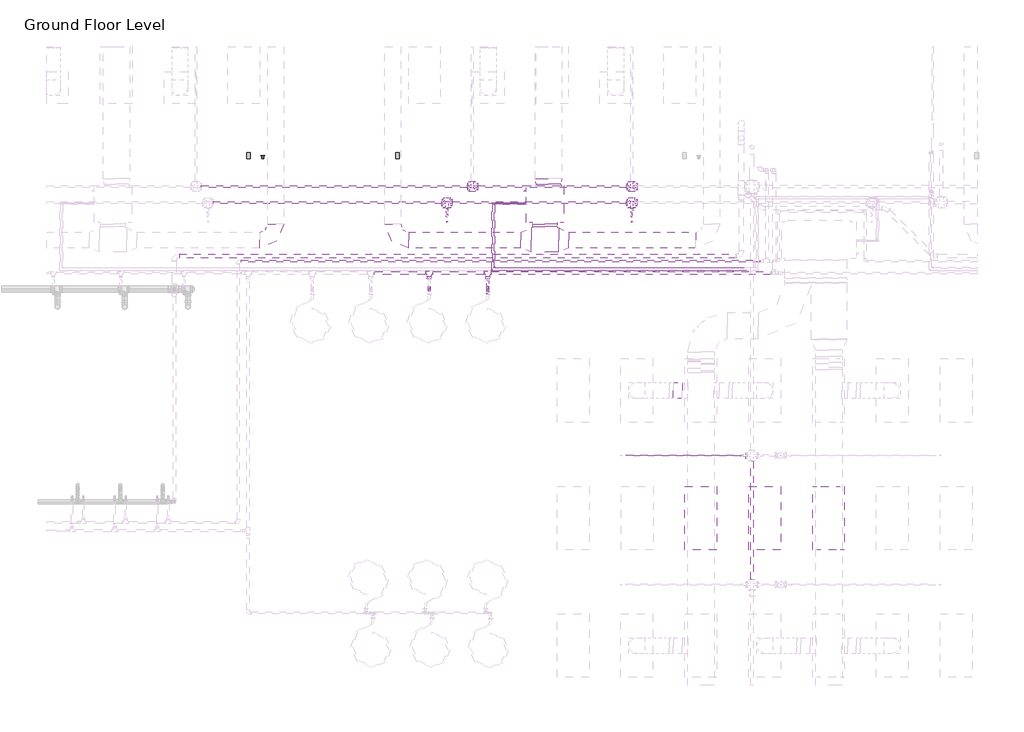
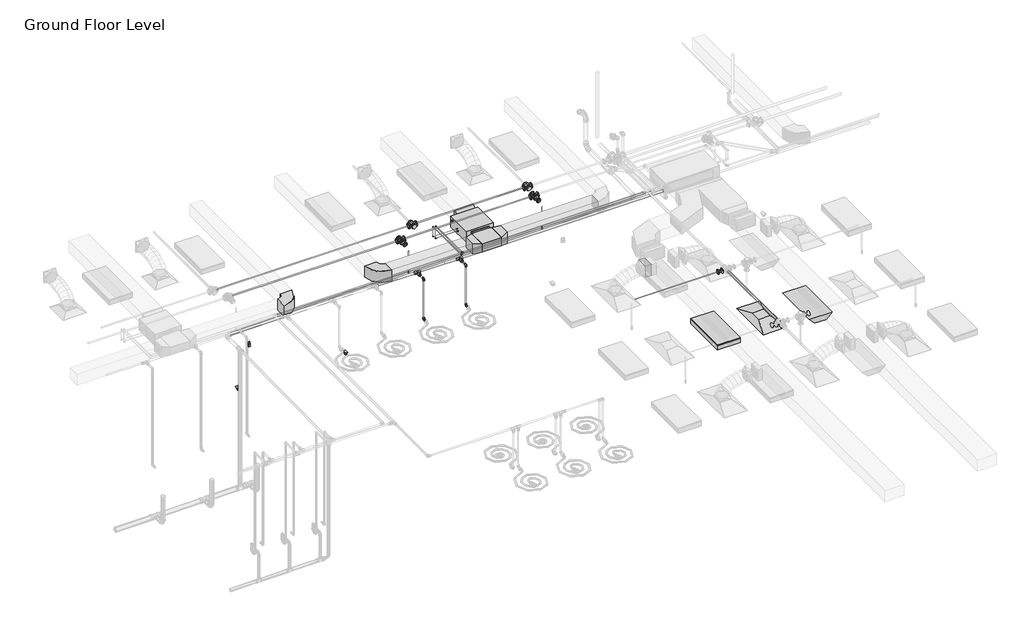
# One storey, part 48 of 74: 27 pipe segments, 21 pipe fittings, 8 duct fittings, 4 duct segments, 3 proxies, 2 fire suppression terminals, 2 light fixtures, 1 air terminal, 1 switching device.
"""IFC4 building model written with IfcOpenShell, lengths in millimetres."""

from ifc_helpers import new_model, si_unit, point, frame, frame_2d, origin, place, context, project, spatial, polyline, circle_curve, trimmed, segment, composite_curve, outline, extrude, transform, mapped, element, save
from components import m_return_diffuser_1200x600_1200_x_600_face_300_x_300_d1983ef6, fcu_daikin_iu_bad131e0, m_duplex_receptacle_standard_10251bba, m_rectangular_elbow_radius_1_w_618da153, m_rectangular_tee_standard_fa4de0e8, m_rectangular_transition_angle_45_degree_5a11b24e, m_rectangular_transition_angle_45_degree_27e6000f, m_rectangular_transition_angle_45_degree_1c32c0a1, m_rectangular_transition_angle_45_degree_6e5ad010, m_sprinkler_pendent_15_mm_pendent_06fcbd8e, m_emergency_recessed_lighting_fixture_600x1200_277_5b10b25d, m_troffer_light_parabolic_rectangular1_0600x1200mm_4_lamp_86473d4a, m_elbow_generic_standard_a088f956, m_elbow_generic_standard_2a704253, m_elbow_generic_standard_6b1a80c6, m_elbow_generic_standard_5542be81, m_reducer_flanged_cs_class_150_standard_ccf252ad, m_reducer_flanged_cs_class_150_standard_83138b42, m_tee_generic_standard_5b2ed4d4, m_tee_generic_standard_25a94648, m_tee_round_base_flanged_cs_class_150_standard_7e5987a1, standard_517a5a8d, standard_cd25fed3, standard_f1337950

model = new_model("IFC4")

# Units and contexts
model_context = context("Model", 3, world=origin())
ifc_project = project(units=[si_unit("LENGTHUNIT", "METRE", prefix="MILLI")], contexts=[model_context])

# Site, building, storey
site = spatial("IfcSite", under=ifc_project)
building = spatial("IfcBuilding", under=site)
storey = spatial("IfcBuildingStorey", under=building, Name="Ground Floor Level", Elevation=900.0)

# Air terminal
placement = place(None, origin())
m_return_diffuser_1200x600_1200_x_600_face_300_x_300_shape = m_return_diffuser_1200x600_1200_x_600_face_300_x_300_d1983ef6(model_context)
element("IfcAirTerminal", 1, ObjectType="M_Return Diffuser 1200x600 : 1200 x 600 Face 300 x 300 Connection", at=placement, inside=storey, context=model_context, shape_type="MappedRepresentation", body=[
    mapped(m_return_diffuser_1200x600_1200_x_600_face_300_x_300_shape, transform((-5737.2327605, 8835.2153534, 3650.0), x_axis=(0.0, 1.0, 0.0), y_axis=(-1.0, 0.0, 0.0), z_axis=(0.0, 0.0, 1.0))),
])

# Proxies
fcu_daikin_iu_shape = fcu_daikin_iu_bad131e0(model_context)
element("IfcBuildingElementProxy", 2, Name="FCU-DAIKIN IU : 4.5kW, 230V/50Hz/1Ph", ObjectType="FCU-DAIKIN IU : 4.5kW, 230V/50Hz/1Ph", at=placement, inside=storey, context=model_context, shape_type="MappedRepresentation", body=[
    mapped(fcu_daikin_iu_shape, transform((-9872.2327605, 14745.2153534, 3934.0872564), x_axis=(-1.0, 0.0, 0.0), y_axis=(0.0, -1.0, 0.0), z_axis=(0.0, 0.0, 1.0))),
])
m_duplex_receptacle_standard_shape = m_duplex_receptacle_standard_10251bba(model_context)
element("IfcBuildingElementProxy", 3, Name="M_Duplex Receptacle : Standard", ObjectType="M_Duplex Receptacle : Standard", at=placement, inside=storey, context=model_context, shape_type="MappedRepresentation", body=[
    mapped(m_duplex_receptacle_standard_shape, transform((-15447.2327605, 15655.2153534, 1000.0), x_axis=(1.0, 0.0, 0.0), y_axis=(0.0, 1.0, 0.0), z_axis=(0.0, 0.0, 1.0))),
])
element("IfcBuildingElementProxy", 4, Name="M_Duplex Receptacle : Standard", ObjectType="M_Duplex Receptacle : Standard", at=placement, inside=storey, context=model_context, shape_type="MappedRepresentation", body=[
    mapped(m_duplex_receptacle_standard_shape, transform((-12647.2327605, 15655.2153534, 1000.0), x_axis=(1.0, 0.0, 0.0), y_axis=(0.0, 1.0, 0.0), z_axis=(0.0, 0.0, 1.0))),
])

# Duct fittings
m_rectangular_elbow_radius_1_w_shape = m_rectangular_elbow_radius_1_w_618da153(model_context)
element("IfcDuctFitting", 5, ObjectType="M_Rectangular Elbow - Radius : 1 W", at=placement, inside=storey, context=model_context, shape_type="MappedRepresentation", body=[
    mapped(m_rectangular_elbow_radius_1_w_shape, transform((-14937.2327605, 14069.8153534, 4075.2881511), x_axis=(1.0, 0.0, 0.0), y_axis=(0.0, 1.0, 0.0), z_axis=(0.0, 0.0, 1.0))),
])
element("IfcDuctFitting", 6, ObjectType="M_Rectangular Elbow - Radius : 1 W", at=placement, inside=storey, context=model_context, shape_type="MappedRepresentation", body=[
    mapped(m_rectangular_elbow_radius_1_w_shape, transform((-12737.2327605, 14069.8153534, 4075.2872564), x_axis=(0.0, -1.0, 0.0), y_axis=(1.0, 0.0, 0.0), z_axis=(0.0, 0.0, 1.0))),
])
m_rectangular_tee_standard_shape = m_rectangular_tee_standard_fa4de0e8(model_context)
element("IfcDuctFitting", 7, ObjectType="M_Rectangular Tee : Standard", at=placement, inside=storey, context=model_context, shape_type="MappedRepresentation", body=[
    mapped(m_rectangular_tee_standard_shape, transform((-9872.2327605, 14069.8153534, 4075.2872564), x_axis=(-1.0, 0.0, 0.0), y_axis=(0.0, -1.0, 0.0), z_axis=(0.0, 0.0, 1.0))),
])
m_rectangular_transition_angle_45_degree_shape = m_rectangular_transition_angle_45_degree_5a11b24e(model_context)
element("IfcDuctFitting", 8, ObjectType="M_Rectangular Transition - Angle : 45 Degree", at=placement, inside=storey, context=model_context, shape_type="MappedRepresentation", body=[
    mapped(m_rectangular_transition_angle_45_degree_shape, transform((-9808.7327605, 15120.6153534, 4099.9997564), x_axis=(0.0, 1.0, 0.0), y_axis=(-1.0, 0.0, 0.0), z_axis=(0.0, 0.0, 1.0))),
])
m_rectangular_transition_angle_45_degree_2_shape = m_rectangular_transition_angle_45_degree_27e6000f(model_context)
element("IfcDuctFitting", 9, ObjectType="M_Rectangular Transition - Angle : 45 Degree", at=placement, inside=storey, context=model_context, shape_type="MappedRepresentation", body=[
    mapped(m_rectangular_transition_angle_45_degree_2_shape, transform((-9872.2327605, 14369.8153534, 4075.2872564), x_axis=(0.0, -1.0, 0.0), y_axis=(1.0, 0.0, 0.0), z_axis=(0.0, 0.0, 1.0))),
])
m_rectangular_transition_angle_45_degree_3_shape = m_rectangular_transition_angle_45_degree_1c32c0a1(model_context)
element("IfcDuctFitting", 10, ObjectType="M_Rectangular Transition - Angle : 45 Degree", at=placement, inside=storey, context=model_context, shape_type="MappedRepresentation", body=[
    mapped(m_rectangular_transition_angle_45_degree_3_shape, transform((-9872.2327605, 14326.1149854, 4075.2872564), x_axis=(0.0, -1.0, 0.0), y_axis=(1.0, 0.0, 0.0), z_axis=(0.0, 0.0, 1.0))),
])
m_rectangular_transition_angle_45_degree_4_shape = m_rectangular_transition_angle_45_degree_6e5ad010(model_context)
element("IfcDuctFitting", 11, ObjectType="M_Rectangular Transition - Angle : 45 Degree", at=placement, inside=storey, context=model_context, shape_type="MappedRepresentation", body=[
    mapped(m_rectangular_transition_angle_45_degree_4_shape, transform((-10128.1702605, 14069.8153534, 4075.2872564), x_axis=(-1.0, 0.0, 0.0), y_axis=(0.0, -1.0, 0.0), z_axis=(0.0, 0.0, 1.0))),
])
element("IfcDuctFitting", 12, ObjectType="M_Rectangular Transition - Angle : 45 Degree", at=placement, inside=storey, context=model_context, shape_type="MappedRepresentation", body=[
    mapped(m_rectangular_transition_angle_45_degree_4_shape, transform((-9616.2952605, 14069.8153534, 4075.2872564), x_axis=(1.0, 0.0, 0.0), y_axis=(0.0, 1.0, 0.0), z_axis=(0.0, 0.0, 1.0))),
])

# Duct segments
element("IfcDuctSegment", 13, ObjectType="Radius Elbows / Taps", at=placement, inside=storey, context=model_context, shape_type="SweptSolid", body=[
    extrude(outline(polyline([(-9420.8948503, 13919.8153534), (-9420.8948503, 14219.8153534), (-7037.2327605, 14219.8153534), (-7037.2327605, 13919.8153534), (-9420.8948503, 13919.8153534)])), frame((0.0, 0.0, 3925.2872564), z_axis=(0.0, 0.0, 1.0), x_axis=(1.0, 0.0, 0.0)), (0.0, 0.0, 1.0), 300.0),
])
element("IfcDuctSegment", 14, ObjectType="Radius Elbows / Taps", at=placement, inside=storey, context=model_context, shape_type="SweptSolid", body=[
    extrude(outline(polyline([(-12437.2327605, 13919.8153534), (-12437.2327605, 14219.8153534), (-10323.5706707, 14219.8153534), (-10323.5706707, 13919.8153534), (-12437.2327605, 13919.8153534)])), frame((0.0, 0.0, 3925.2872564), z_axis=(0.0, 0.0, 1.0), x_axis=(1.0, 0.0, 0.0)), (0.0, 0.0, 1.0), 300.0),
])
element("IfcDuctSegment", 15, ObjectType="Radius Elbows / Taps", at=placement, inside=storey, context=model_context, shape_type="SweptSolid", body=[
    extrude(outline(polyline([(-10103.2327605, 14369.4532214), (-9641.2327605, 14369.4532214), (-9641.2327605, 14326.1149854), (-10103.2327605, 14326.1149854), (-10103.2327605, 14369.4532214)])), frame((0.0, 0.0, 3968.2872564), z_axis=(0.0, 0.0, 1.0), x_axis=(1.0, 0.0, 0.0)), (0.0, 0.0, 1.0), 214.0),
])
element("IfcDuctSegment", 16, ObjectType="Radius Elbows / Taps", at=placement, inside=storey, context=model_context, shape_type="SweptSolid", body=[
    extrude(outline(polyline([(-7291.2910789, 11385.2153534), (-7291.2910789, 11085.2153534), (-7461.2487616, 11085.2153534), (-7461.2487616, 11385.2153534), (-7291.2910789, 11385.2153534)])), frame((0.0, 0.0, 4000.0), z_axis=(0.0, 0.0, 1.0), x_axis=(1.0, 0.0, 0.0)), (0.0, 0.0, 1.0), 300.0),
])

# Fire suppression terminals
m_sprinkler_pendent_15_mm_pendent_shape = m_sprinkler_pendent_15_mm_pendent_06fcbd8e(model_context)
element("IfcFireSuppressionTerminal", 17, ObjectType="M_Sprinkler - Pendent : 15 mm Pendent", at=placement, inside=storey, context=model_context, shape_type="MappedRepresentation", body=[
    mapped(m_sprinkler_pendent_15_mm_pendent_shape, transform((-11714.286216, 14412.7243649, 3650.0), x_axis=(1.0, 0.0, 0.0), y_axis=(0.0, 1.0, 0.0), z_axis=(0.0, 0.0, 1.0))),
])
element("IfcFireSuppressionTerminal", 18, ObjectType="M_Sprinkler - Pendent : 15 mm Pendent", at=placement, inside=storey, context=model_context, shape_type="MappedRepresentation", body=[
    mapped(m_sprinkler_pendent_15_mm_pendent_shape, transform((-8237.2327605, 14412.7243649, 3650.0), x_axis=(1.0, 0.0, 0.0), y_axis=(0.0, 1.0, 0.0), z_axis=(0.0, 0.0, 1.0))),
])

# Light fixtures
m_emergency_recessed_lighting_fixture_600x1200_277_shape = m_emergency_recessed_lighting_fixture_600x1200_277_5b10b25d(model_context)
element("IfcLightFixture", 19, ObjectType="M_Emergency Recessed Lighting Fixture : 600x1200 - 277", at=placement, inside=storey, context=model_context, shape_type="MappedRepresentation", body=[
    mapped(m_emergency_recessed_lighting_fixture_600x1200_277_shape, transform((-4837.2327605, 8235.2153534, 3650.0), x_axis=(0.0, 1.0, 0.0), y_axis=(-1.0, 0.0, 0.0), z_axis=(0.0, 0.0, 1.0))),
])
m_troffer_light_parabolic_rectangular1_0600x1200mm_4_lamp_shape = m_troffer_light_parabolic_rectangular1_0600x1200mm_4_lamp_86473d4a(model_context)
element("IfcLightFixture", 20, ObjectType="M_Troffer Light - Parabolic Rectangular1 : 0600x1200mm(4 Lamp) - 277V 2", at=placement, inside=storey, context=model_context, shape_type="MappedRepresentation", body=[
    mapped(m_troffer_light_parabolic_rectangular1_0600x1200mm_4_lamp_shape, transform((-6996.6986926, 8853.918855, 3650.0), x_axis=(0.0, 1.0, 0.0), y_axis=(-1.0, 0.0, 0.0), z_axis=(0.0, 0.0, 1.0))),
])

# Pipe fittings
m_elbow_generic_standard_shape = m_elbow_generic_standard_a088f956(model_context)
element("IfcPipeFitting", 21, ObjectType="M_Elbow - Generic : Standard", at=placement, inside=storey, context=model_context, shape_type="MappedRepresentation", body=[
    mapped(m_elbow_generic_standard_shape, transform((-10820.3327605, 14745.2153534, 4380.0), x_axis=(0.0, 0.0, 1.0), y_axis=(0.0, -1.0, 0.0), z_axis=(1.0, 0.0, 0.0))),
])
m_elbow_generic_standard_2_shape = m_elbow_generic_standard_2a704253(model_context)
element("IfcPipeFitting", 22, ObjectType="M_Elbow - Generic : Standard", at=placement, inside=storey, context=model_context, shape_type="MappedRepresentation", body=[
    mapped(m_elbow_generic_standard_2_shape, transform((-10870.0192947, 14770.2153534, 4365.0), x_axis=(0.0, 0.0, 1.0), y_axis=(0.0, -1.0, 0.0), z_axis=(1.0, 0.0, 0.0))),
])
m_elbow_generic_standard_3_shape = m_elbow_generic_standard_6b1a80c6(model_context)
element("IfcPipeFitting", 23, ObjectType="M_Elbow - Generic : Standard", at=placement, inside=storey, context=model_context, shape_type="MappedRepresentation", body=[
    mapped(m_elbow_generic_standard_3_shape, transform((-10820.3359808, 14745.2153534, 4034.0996164), x_axis=(-0.9999999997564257, 0.0, 2.2071440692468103e-05), y_axis=(2.2071440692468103e-05, 0.0, 0.9999999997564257), z_axis=(0.0, 1.0, 0.0))),
])
m_elbow_generic_standard_4_shape = m_elbow_generic_standard_5542be81(model_context)
element("IfcPipeFitting", 24, ObjectType="M_Elbow - Generic : Standard", at=placement, inside=storey, context=model_context, shape_type="MappedRepresentation", body=[
    mapped(m_elbow_generic_standard_4_shape, transform((-10870.0222525, 14770.2153534, 4084.8996164), x_axis=(0.0, 0.0, -1.0), y_axis=(1.0, 0.0, 0.0), z_axis=(0.0, -1.0, 0.0))),
])
m_reducer_flanged_cs_class_150_standard_shape = m_reducer_flanged_cs_class_150_standard_ccf252ad(model_context)
element("IfcPipeFitting", 25, ObjectType="M_Reducer - Flanged - CS - Class 150 : Standard", at=placement, inside=storey, context=model_context, shape_type="MappedRepresentation", body=[
    mapped(m_reducer_flanged_cs_class_150_standard_shape, transform((-11714.286216, 14672.759591, 4291.0943441), x_axis=(0.0, -1.0, 0.0), y_axis=(1.0, 0.0, 0.0), z_axis=(0.0, 0.0, 1.0))),
])
element("IfcPipeFitting", 26, ObjectType="M_Reducer - Flanged - CS - Class 150 : Standard", at=placement, inside=storey, context=model_context, shape_type="MappedRepresentation", body=[
    mapped(m_reducer_flanged_cs_class_150_standard_shape, transform((-8237.2327605, 14672.759591, 4291.0943441), x_axis=(0.0, -1.0, 0.0), y_axis=(1.0, 0.0, 0.0), z_axis=(0.0, 0.0, 1.0))),
])
m_reducer_flanged_cs_class_150_standard_2_shape = m_reducer_flanged_cs_class_150_standard_83138b42(model_context)
element("IfcPipeFitting", 27, ObjectType="M_Reducer - Flanged - CS - Class 150 : Standard", at=placement, inside=storey, context=model_context, shape_type="MappedRepresentation", body=[
    mapped(m_reducer_flanged_cs_class_150_standard_2_shape, transform((-6080.130502, 10013.008259, 4360.0), x_axis=(-1.0, 0.0, 0.0), y_axis=(0.0, 0.0, -1.0), z_axis=(0.0, -1.0, 0.0))),
])
m_tee_generic_standard_shape = m_tee_generic_standard_5b2ed4d4(model_context)
element("IfcPipeFitting", 28, ObjectType="M_Tee - Generic : Standard", at=placement, inside=storey, context=model_context, shape_type="MappedRepresentation", body=[
    mapped(m_tee_generic_standard_shape, transform((-10820.3327605, 13545.2153534, 4380.0), x_axis=(1.0, 0.0, 0.0), y_axis=(0.0, -1.0, 0.0), z_axis=(0.0, 0.0, -1.0))),
])
m_tee_generic_standard_2_shape = m_tee_generic_standard_25a94648(model_context)
element("IfcPipeFitting", 29, ObjectType="M_Tee - Generic : Standard", at=placement, inside=storey, context=model_context, shape_type="MappedRepresentation", body=[
    mapped(m_tee_generic_standard_2_shape, transform((-10870.0192947, 13494.0185138, 4365.0), x_axis=(-1.0, 0.0, 0.0), y_axis=(0.0, -1.0, 0.0), z_axis=(0.0, 0.0, 1.0))),
])
m_tee_round_base_flanged_cs_class_150_standard_shape = m_tee_round_base_flanged_cs_class_150_standard_7e5987a1(model_context)
element("IfcPipeFitting", 30, ObjectType="M_Tee Round Base - Flanged - CS - Class 150 : Standard", at=placement, inside=storey, context=model_context, shape_type="MappedRepresentation", body=[
    mapped(m_tee_round_base_flanged_cs_class_150_standard_shape, transform((-11714.286216, 14773.4681847, 4291.0943441), x_axis=(-1.0, 0.0, 0.0), y_axis=(0.0, 1.0, 0.0), z_axis=(0.0, 0.0, -1.0))),
])
element("IfcPipeFitting", 31, ObjectType="M_Tee Round Base - Flanged - CS - Class 150 : Standard", at=placement, inside=storey, context=model_context, shape_type="MappedRepresentation", body=[
    mapped(m_tee_round_base_flanged_cs_class_150_standard_shape, transform((-8237.2327605, 14773.4681847, 4291.0943441), x_axis=(-1.0, 0.0, 0.0), y_axis=(0.0, 1.0, 0.0), z_axis=(0.0, 0.0, -1.0))),
])
element("IfcPipeFitting", 32, ObjectType="M_Tee Round Base - Flanged - CS - Class 150 : Standard", at=placement, inside=storey, context=model_context, shape_type="MappedRepresentation", body=[
    mapped(m_tee_round_base_flanged_cs_class_150_standard_shape, transform((-11237.2327605, 15073.2009828, 4360.0), x_axis=(-1.0, 0.0, 0.0), y_axis=(0.0, -1.0, 0.0), z_axis=(0.0, 0.0, 1.0))),
])
element("IfcPipeFitting", 33, ObjectType="M_Tee Round Base - Flanged - CS - Class 150 : Standard", at=placement, inside=storey, context=model_context, shape_type="MappedRepresentation", body=[
    mapped(m_tee_round_base_flanged_cs_class_150_standard_shape, transform((-8237.2327605, 15073.2009828, 4360.0), x_axis=(-1.0, 0.0, 0.0), y_axis=(0.0, -1.0, 0.0), z_axis=(0.0, 0.0, 1.0))),
])
standard_shape = standard_517a5a8d(model_context)
element("IfcPipeFitting", 34, ObjectType="M_Elbow - CPVC - Sch 40 : Standard", at=placement, inside=storey, context=model_context, shape_type="MappedRepresentation", body=[
    mapped(standard_shape, transform((-12047.2327605, 13150.8347997, 4315.0), x_axis=(0.0, 0.0, 1.0), y_axis=(0.0, 1.0, 0.0), z_axis=(-1.0, 0.0, 0.0))),
])
element("IfcPipeFitting", 35, ObjectType="M_Elbow - CPVC - Sch 40 : Standard", at=placement, inside=storey, context=model_context, shape_type="MappedRepresentation", body=[
    mapped(standard_shape, transform((-10947.2327605, 13150.8347997, 4315.0), x_axis=(0.0, 0.0, 1.0), y_axis=(0.0, 1.0, 0.0), z_axis=(-1.0, 0.0, 0.0))),
])
element("IfcPipeFitting", 36, ObjectType="M_Elbow - CPVC - Sch 40 : Standard", at=placement, inside=storey, context=model_context, shape_type="MappedRepresentation", body=[
    mapped(standard_shape, transform((-12047.2327605, 13150.8347997, 3200.0), x_axis=(0.0, 0.0, -1.0), y_axis=(0.0, -1.0, 0.0), z_axis=(-1.0, 0.0, 0.0))),
])
element("IfcPipeFitting", 37, ObjectType="M_Elbow - CPVC - Sch 40 : Standard", at=placement, inside=storey, context=model_context, shape_type="MappedRepresentation", body=[
    mapped(standard_shape, transform((-10947.2327605, 13150.8347997, 3200.0), x_axis=(0.0, 0.0, -1.0), y_axis=(0.0, -1.0, 0.0), z_axis=(-1.0, 0.0, 0.0))),
])
standard_2_shape = standard_cd25fed3(model_context)
element("IfcPipeFitting", 38, ObjectType="M_Tee - CPVC - Sch 40 : Standard", at=placement, inside=storey, context=model_context, shape_type="MappedRepresentation", body=[
    mapped(standard_2_shape, transform((-12047.2327605, 13449.9865561, 4315.0), x_axis=(-1.0, 0.0, 0.0), y_axis=(0.0, 1.0, 0.0), z_axis=(0.0, 0.0, -1.0))),
])
element("IfcPipeFitting", 39, ObjectType="M_Tee - CPVC - Sch 40 : Standard", at=placement, inside=storey, context=model_context, shape_type="MappedRepresentation", body=[
    mapped(standard_2_shape, transform((-10947.2327605, 13449.9865561, 4315.0), x_axis=(1.0, 0.0, 0.0), y_axis=(0.0, 1.0, 0.0), z_axis=(0.0, 0.0, 1.0))),
])
standard_3_shape = standard_f1337950(model_context)
element("IfcPipeFitting", 40, ObjectType="M_Coupling Reducing - CPVC - Sch 40 : Standard", at=placement, inside=storey, context=model_context, shape_type="MappedRepresentation", body=[
    mapped(standard_3_shape, transform((-12047.2327605, 13383.3115561, 4315.0), x_axis=(0.0, -1.0, 0.0), y_axis=(1.0, 0.0, 0.0), z_axis=(0.0, 0.0, 1.0))),
])
element("IfcPipeFitting", 41, ObjectType="M_Coupling Reducing - CPVC - Sch 40 : Standard", at=placement, inside=storey, context=model_context, shape_type="MappedRepresentation", body=[
    mapped(standard_3_shape, transform((-10947.2327605, 13383.3115561, 4315.0), x_axis=(0.0, -1.0, 0.0), y_axis=(1.0, 0.0, 0.0), z_axis=(0.0, 0.0, 1.0))),
])

# Pipe segments
element("IfcPipeSegment", 42, ObjectType="CPVC", at=placement, inside=storey, context=model_context, shape_type="SweptSolid", body=[
    extrude(outline(composite_curve([segment(trimmed(circle_curve(frame_2d((-12047.2327605, 13150.8347997)), 16.7005), [point((-12063.9332605, 13150.8347997))], [point((-12047.2327605, 13167.5352997))], False, "CARTESIAN"), True, "CONTINUOUS"), segment(trimmed(circle_curve(frame_2d((-12047.2327605, 13150.8347997)), 16.7005), [point((-12047.2327605, 13167.5352997))], [point((-12030.5322605, 13150.8347997))], False, "CARTESIAN"), True, "CONTINUOUS"), segment(trimmed(circle_curve(frame_2d((-12047.2327605, 13150.8347997)), 16.7005), [point((-12030.5322605, 13150.8347997))], [point((-12047.2327605, 13134.1342997))], False, "CARTESIAN"), True, "CONTINUOUS"), segment(trimmed(circle_curve(frame_2d((-12047.2327605, 13150.8347997)), 16.7005), [point((-12047.2327605, 13134.1342997))], [point((-12063.9332605, 13150.8347997))], False, "CARTESIAN"), True, "CONTINUOUS")], self_intersect=False)), frame((0.0, 0.0, 3243.26255), z_axis=(0.0, 0.0, 1.0), x_axis=(1.0, 0.0, 0.0)), (0.0, 0.0, 1.0), 1028.4749),
])
element("IfcPipeSegment", 43, ObjectType="CPVC", at=placement, inside=storey, context=model_context, shape_type="SweptSolid", body=[
    extrude(outline(composite_curve([segment(trimmed(circle_curve(frame_2d((3200.0, -10947.2327605)), 16.7005), [point((3200.0, -10963.9332605))], [point((3183.2995, -10947.2327605))], False, "CARTESIAN"), True, "CONTINUOUS"), segment(trimmed(circle_curve(frame_2d((3200.0, -10947.2327605)), 16.7005), [point((3183.2995, -10947.2327605))], [point((3200.0, -10930.5322605))], False, "CARTESIAN"), True, "CONTINUOUS"), segment(trimmed(circle_curve(frame_2d((3200.0, -10947.2327605)), 16.7005), [point((3200.0, -10930.5322605))], [point((3216.7005, -10947.2327605))], False, "CARTESIAN"), True, "CONTINUOUS"), segment(trimmed(circle_curve(frame_2d((3200.0, -10947.2327605)), 16.7005), [point((3216.7005, -10947.2327605))], [point((3200.0, -10963.9332605))], False, "CARTESIAN"), True, "CONTINUOUS")], self_intersect=False)), frame((0.0, 13056.8347997, 0.0), z_axis=(0.0, 1.0, 0.0), x_axis=(0.0, 0.0, 1.0)), (0.0, 0.0, 1.0), 50.73745),
])
element("IfcPipeSegment", 44, ObjectType="CPVC", at=placement, inside=storey, context=model_context, shape_type="SweptSolid", body=[
    extrude(outline(composite_curve([segment(trimmed(circle_curve(frame_2d((4315.0, -10947.2327605)), 16.7005), [point((4315.0, -10930.5322605))], [point((4331.7005, -10947.2327605))], False, "CARTESIAN"), True, "CONTINUOUS"), segment(trimmed(circle_curve(frame_2d((4315.0, -10947.2327605)), 16.7005), [point((4331.7005, -10947.2327605))], [point((4315.0, -10963.9332605))], False, "CARTESIAN"), True, "CONTINUOUS"), segment(trimmed(circle_curve(frame_2d((4315.0, -10947.2327605)), 16.7005), [point((4315.0, -10963.9332605))], [point((4298.2995, -10947.2327605))], False, "CARTESIAN"), True, "CONTINUOUS"), segment(trimmed(circle_curve(frame_2d((4315.0, -10947.2327605)), 16.7005), [point((4298.2995, -10947.2327605))], [point((4315.0, -10930.5322605))], False, "CARTESIAN"), True, "CONTINUOUS")], self_intersect=False)), frame((0.0, 13194.0973497, 0.0), z_axis=(0.0, 1.0, 0.0), x_axis=(0.0, 0.0, 1.0)), (0.0, 0.0, 1.0), 109.4153315),
])
element("IfcPipeSegment", 45, ObjectType="CPVC", at=placement, inside=storey, context=model_context, shape_type="SweptSolid", body=[
    extrude(outline(composite_curve([segment(trimmed(circle_curve(frame_2d((-10947.2327605, 13150.8347997)), 16.7005), [point((-10963.9332605, 13150.8347997))], [point((-10947.2327605, 13167.5352997))], False, "CARTESIAN"), True, "CONTINUOUS"), segment(trimmed(circle_curve(frame_2d((-10947.2327605, 13150.8347997)), 16.7005), [point((-10947.2327605, 13167.5352997))], [point((-10930.5322605, 13150.8347997))], False, "CARTESIAN"), True, "CONTINUOUS"), segment(trimmed(circle_curve(frame_2d((-10947.2327605, 13150.8347997)), 16.7005), [point((-10930.5322605, 13150.8347997))], [point((-10947.2327605, 13134.1342997))], False, "CARTESIAN"), True, "CONTINUOUS"), segment(trimmed(circle_curve(frame_2d((-10947.2327605, 13150.8347997)), 16.7005), [point((-10947.2327605, 13134.1342997))], [point((-10963.9332605, 13150.8347997))], False, "CARTESIAN"), True, "CONTINUOUS")], self_intersect=False)), frame((0.0, 0.0, 3243.26255), z_axis=(0.0, 0.0, 1.0), x_axis=(1.0, 0.0, 0.0)), (0.0, 0.0, 1.0), 1028.4749),
])
element("IfcPipeSegment", 46, ObjectType="CPVC", at=placement, inside=storey, context=model_context, shape_type="SweptSolid", body=[
    extrude(outline(composite_curve([segment(trimmed(circle_curve(frame_2d((13449.9865561, 4315.0)), 30.1625), [point((13419.8240561, 4315.0))], [point((13449.9865561, 4345.1625))], False, "CARTESIAN"), True, "CONTINUOUS"), segment(trimmed(circle_curve(frame_2d((13449.9865561, 4315.0)), 30.1625), [point((13449.9865561, 4345.1625))], [point((13480.1490561, 4315.0))], False, "CARTESIAN"), True, "CONTINUOUS"), segment(trimmed(circle_curve(frame_2d((13449.9865561, 4315.0)), 30.1625), [point((13480.1490561, 4315.0))], [point((13449.9865561, 4284.8375))], False, "CARTESIAN"), True, "CONTINUOUS"), segment(trimmed(circle_curve(frame_2d((13449.9865561, 4315.0)), 30.1625), [point((13449.9865561, 4284.8375))], [point((13419.8240561, 4315.0))], False, "CARTESIAN"), True, "CONTINUOUS")], self_intersect=False)), frame((-13080.5577605, 0.0, 0.0), z_axis=(1.0, 0.0, 0.0), x_axis=(0.0, 1.0, 0.0)), (0.0, 0.0, 1.0), 966.65),
])
element("IfcPipeSegment", 47, ObjectType="CPVC", at=placement, inside=storey, context=model_context, shape_type="SweptSolid", body=[
    extrude(outline(composite_curve([segment(trimmed(circle_curve(frame_2d((13449.9865561, 4315.0)), 30.1625), [point((13419.8240561, 4315.0))], [point((13449.9865561, 4345.1625))], False, "CARTESIAN"), True, "CONTINUOUS"), segment(trimmed(circle_curve(frame_2d((13449.9865561, 4315.0)), 30.1625), [point((13449.9865561, 4345.1625))], [point((13480.1490561, 4315.0))], False, "CARTESIAN"), True, "CONTINUOUS"), segment(trimmed(circle_curve(frame_2d((13449.9865561, 4315.0)), 30.1625), [point((13480.1490561, 4315.0))], [point((13449.9865561, 4284.8375))], False, "CARTESIAN"), True, "CONTINUOUS"), segment(trimmed(circle_curve(frame_2d((13449.9865561, 4315.0)), 30.1625), [point((13449.9865561, 4284.8375))], [point((13419.8240561, 4315.0))], False, "CARTESIAN"), True, "CONTINUOUS")], self_intersect=False)), frame((-11980.5577605, 0.0, 0.0), z_axis=(1.0, 0.0, 0.0), x_axis=(0.0, 1.0, 0.0)), (0.0, 0.0, 1.0), 966.65),
])
element("IfcPipeSegment", 48, ObjectType="CPVC", at=placement, inside=storey, context=model_context, shape_type="SweptSolid", body=[
    extrude(outline(composite_curve([segment(trimmed(circle_curve(frame_2d((13675.2153534, 4250.0)), 21.082), [point((13654.1333534, 4250.0))], [point((13675.2153534, 4271.082))], False, "CARTESIAN"), True, "CONTINUOUS"), segment(trimmed(circle_curve(frame_2d((13675.2153534, 4250.0)), 21.082), [point((13675.2153534, 4271.082))], [point((13696.2973534, 4250.0))], False, "CARTESIAN"), True, "CONTINUOUS"), segment(trimmed(circle_curve(frame_2d((13675.2153534, 4250.0)), 21.082), [point((13696.2973534, 4250.0))], [point((13675.2153534, 4228.918))], False, "CARTESIAN"), True, "CONTINUOUS"), segment(trimmed(circle_curve(frame_2d((13675.2153534, 4250.0)), 21.082), [point((13675.2153534, 4228.918))], [point((13654.1333534, 4250.0))], False, "CARTESIAN"), True, "CONTINUOUS")], self_intersect=False)), frame((-15584.8736174, 0.0, 0.0), z_axis=(1.0, 0.0, 0.0), x_axis=(0.0, 1.0, 0.0)), (0.0, 0.0, 1.0), 9750.0786527),
])
element("IfcPipeSegment", 49, ObjectType="CPVC", at=placement, inside=storey, context=model_context, shape_type="SweptSolid", body=[
    extrude(outline(composite_curve([segment(trimmed(circle_curve(frame_2d((13449.9865561, 4315.0)), 30.1625), [point((13419.8240561, 4315.0))], [point((13449.9865561, 4345.1625))], False, "CARTESIAN"), True, "CONTINUOUS"), segment(trimmed(circle_curve(frame_2d((13449.9865561, 4315.0)), 30.1625), [point((13449.9865561, 4345.1625))], [point((13480.1490561, 4315.0))], False, "CARTESIAN"), True, "CONTINUOUS"), segment(trimmed(circle_curve(frame_2d((13449.9865561, 4315.0)), 30.1625), [point((13480.1490561, 4315.0))], [point((13449.9865561, 4284.8375))], False, "CARTESIAN"), True, "CONTINUOUS"), segment(trimmed(circle_curve(frame_2d((13449.9865561, 4315.0)), 30.1625), [point((13449.9865561, 4284.8375))], [point((13419.8240561, 4315.0))], False, "CARTESIAN"), True, "CONTINUOUS")], self_intersect=False)), frame((-10880.5577605, 0.0, 0.0), z_axis=(1.0, 0.0, 0.0), x_axis=(0.0, 1.0, 0.0)), (0.0, 0.0, 1.0), 5253.0113849),
])
element("IfcPipeSegment", 50, ObjectType="Copper", at=placement, inside=storey, context=model_context, shape_type="SweptSolid", body=[
    extrude(outline(composite_curve([segment(trimmed(circle_curve(frame_2d((0.0, -3.35)), 3.35), [point((-3.35, -3.35))], [point((0.0, 0.0))], False, "CARTESIAN"), True, "CONTINUOUS"), segment(trimmed(circle_curve(frame_2d((0.0, -3.35)), 3.35), [point((0.0, 0.0))], [point((3.35, -3.35))], False, "CARTESIAN"), True, "CONTINUOUS"), segment(trimmed(circle_curve(frame_2d((0.0, -3.35)), 3.35), [point((3.35, -3.35))], [point((0.0, -6.7))], False, "CARTESIAN"), True, "CONTINUOUS"), segment(trimmed(circle_curve(frame_2d((0.0, -3.35)), 3.35), [point((0.0, -6.7))], [point((-3.35, -3.35))], False, "CARTESIAN"), True, "CONTINUOUS")], self_intersect=False)), frame((-10260.3328284, 14770.2153534, 4081.5372564), z_axis=(-0.9999999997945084, 0.0, 2.0272724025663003e-05), x_axis=(0.0, 1.0, 0.0)), (0.0, 0.0, 1.0), 598.5522179),
])
element("IfcPipeSegment", 51, ObjectType="Copper", at=placement, inside=storey, context=model_context, shape_type="SweptSolid", body=[
    extrude(outline(composite_curve([segment(trimmed(circle_curve(frame_2d((4365.0, -10870.0192947)), 3.35), [point((4365.0, -10873.3692947))], [point((4361.65, -10870.0192947))], False, "CARTESIAN"), True, "CONTINUOUS"), segment(trimmed(circle_curve(frame_2d((4365.0, -10870.0192947)), 3.35), [point((4361.65, -10870.0192947))], [point((4365.0, -10866.6692947))], False, "CARTESIAN"), True, "CONTINUOUS"), segment(trimmed(circle_curve(frame_2d((4365.0, -10870.0192947)), 3.35), [point((4365.0, -10866.6692947))], [point((4368.35, -10870.0192947))], False, "CARTESIAN"), True, "CONTINUOUS"), segment(trimmed(circle_curve(frame_2d((4365.0, -10870.0192947)), 3.35), [point((4368.35, -10870.0192947))], [point((4365.0, -10873.3692947))], False, "CARTESIAN"), True, "CONTINUOUS")], self_intersect=False)), frame((0.0, 13511.5060138, 0.0), z_axis=(0.0, 1.0, 0.0), x_axis=(0.0, 0.0, 1.0)), (0.0, 0.0, 1.0), 1247.5718396),
])
element("IfcPipeSegment", 52, ObjectType="Copper", at=placement, inside=storey, context=model_context, shape_type="SweptSolid", body=[
    extrude(outline(composite_curve([segment(trimmed(circle_curve(frame_2d((0.0, -3.35)), 3.35), [point((-3.35, -3.35))], [point((0.0, 0.0))], False, "CARTESIAN"), True, "CONTINUOUS"), segment(trimmed(circle_curve(frame_2d((0.0, -3.35)), 3.35), [point((0.0, 0.0))], [point((3.35, -3.35))], False, "CARTESIAN"), True, "CONTINUOUS"), segment(trimmed(circle_curve(frame_2d((0.0, -3.35)), 3.35), [point((3.35, -3.35))], [point((0.0, -6.7))], False, "CARTESIAN"), True, "CONTINUOUS"), segment(trimmed(circle_curve(frame_2d((0.0, -3.35)), 3.35), [point((0.0, -6.7))], [point((-3.35, -3.35))], False, "CARTESIAN"), True, "CONTINUOUS")], self_intersect=False)), frame((-10870.0222525, 14766.8653534, 4096.0368906), z_axis=(1.1472088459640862e-05, 0.0, 0.9999999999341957), x_axis=(-0.9999999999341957, 0.0, 1.1472088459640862e-05)), (0.0, 0.0, 1.0), 257.8256094),
])
element("IfcPipeSegment", 53, ObjectType="Copper", at=placement, inside=storey, context=model_context, shape_type="SweptSolid", body=[
    extrude(outline(composite_curve([segment(trimmed(circle_curve(frame_2d((0.0, 6.5)), 6.5), [point((-6.5, 6.5))], [point((0.0, 13.0))], False, "CARTESIAN"), True, "CONTINUOUS"), segment(trimmed(circle_curve(frame_2d((0.0, 6.5)), 6.5), [point((0.0, 13.0))], [point((6.5, 6.5))], False, "CARTESIAN"), True, "CONTINUOUS"), segment(trimmed(circle_curve(frame_2d((0.0, 6.5)), 6.5), [point((6.5, 6.5))], [point((0.0, 0.0))], False, "CARTESIAN"), True, "CONTINUOUS"), segment(trimmed(circle_curve(frame_2d((0.0, 6.5)), 6.5), [point((0.0, 0.0))], [point((-6.5, 6.5))], False, "CARTESIAN"), True, "CONTINUOUS")], self_intersect=False)), frame((-10260.332904, 14745.2153534, 4027.5872564), z_axis=(-0.9999999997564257, 0.0, 2.2071440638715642e-05), x_axis=(0.0, -1.0, 0.0)), (0.0, 0.0, 1.0), 545.7160357),
])
element("IfcPipeSegment", 54, ObjectType="Copper", at=placement, inside=storey, context=model_context, shape_type="SweptSolid", body=[
    extrude(outline(composite_curve([segment(trimmed(circle_curve(frame_2d((0.0, 6.5)), 6.5), [point((-6.4999999, 6.5))], [point((0.0, 13.0))], False, "CARTESIAN"), True, "CONTINUOUS"), segment(trimmed(circle_curve(frame_2d((0.0, 6.5)), 6.5), [point((0.0, 13.0))], [point((6.5, 6.5))], False, "CARTESIAN"), True, "CONTINUOUS"), segment(trimmed(circle_curve(frame_2d((0.0, 6.5)), 6.5), [point((6.5, 6.5))], [point((0.0, 0.0))], False, "CARTESIAN"), True, "CONTINUOUS"), segment(trimmed(circle_curve(frame_2d((0.0, 6.5)), 6.5), [point((0.0, 0.0))], [point((-6.4999999, 6.5))], False, "CARTESIAN"), True, "CONTINUOUS")], self_intersect=False)), frame((-10820.3359808, 14738.7153534, 4048.3868011), z_axis=(1.0148033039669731e-05, 0.0, 0.9999999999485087), x_axis=(0.9999999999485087, 0.0, -1.0148033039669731e-05)), (0.0, 0.0, 1.0), 317.3256989),
])
element("IfcPipeSegment", 55, ObjectType="Copper", at=placement, inside=storey, context=model_context, shape_type="SweptSolid", body=[
    extrude(outline(composite_curve([segment(trimmed(circle_curve(frame_2d((4380.0, -10820.3327605)), 6.5), [point((4380.0, -10826.8327605))], [point((4373.5, -10820.3327605))], False, "CARTESIAN"), True, "CONTINUOUS"), segment(trimmed(circle_curve(frame_2d((4380.0, -10820.3327605)), 6.5), [point((4373.5, -10820.3327605))], [point((4380.0, -10813.8327605))], False, "CARTESIAN"), True, "CONTINUOUS"), segment(trimmed(circle_curve(frame_2d((4380.0, -10820.3327605)), 6.5), [point((4380.0, -10813.8327605))], [point((4386.5, -10820.3327605))], False, "CARTESIAN"), True, "CONTINUOUS"), segment(trimmed(circle_curve(frame_2d((4380.0, -10820.3327605)), 6.5), [point((4386.5, -10820.3327605))], [point((4380.0, -10826.8327605))], False, "CARTESIAN"), True, "CONTINUOUS")], self_intersect=False)), frame((0.0, 13565.8528534, 0.0), z_axis=(0.0, 1.0, 0.0), x_axis=(0.0, 0.0, 1.0)), (0.0, 0.0, 1.0), 1165.075),
])
element("IfcPipeSegment", 56, ObjectType="Copper", at=placement, inside=storey, context=model_context, shape_type="SweptSolid", body=[
    extrude(outline(composite_curve([segment(trimmed(circle_curve(frame_2d((13545.2153534, 4380.0)), 6.5), [point((13538.7153534, 4380.0))], [point((13545.2153534, 4386.5))], False, "CARTESIAN"), True, "CONTINUOUS"), segment(trimmed(circle_curve(frame_2d((13545.2153534, 4380.0)), 6.5), [point((13545.2153534, 4386.5))], [point((13551.7153534, 4380.0))], False, "CARTESIAN"), True, "CONTINUOUS"), segment(trimmed(circle_curve(frame_2d((13545.2153534, 4380.0)), 6.5), [point((13551.7153534, 4380.0))], [point((13545.2153534, 4373.5))], False, "CARTESIAN"), True, "CONTINUOUS"), segment(trimmed(circle_curve(frame_2d((13545.2153534, 4380.0)), 6.5), [point((13545.2153534, 4373.5))], [point((13538.7153534, 4380.0))], False, "CARTESIAN"), True, "CONTINUOUS")], self_intersect=False)), frame((-10799.6952605, 0.0, 0.0), z_axis=(1.0, 0.0, 0.0), x_axis=(0.0, 1.0, 0.0)), (0.0, 0.0, 1.0), 4693.638441),
])
element("IfcPipeSegment", 57, ObjectType="Copper", at=placement, inside=storey, context=model_context, shape_type="SweptSolid", body=[
    extrude(outline(composite_curve([segment(trimmed(circle_curve(frame_2d((13494.0185138, 4365.0)), 3.35), [point((13490.6685138, 4365.0))], [point((13494.0185138, 4368.35))], False, "CARTESIAN"), True, "CONTINUOUS"), segment(trimmed(circle_curve(frame_2d((13494.0185138, 4365.0)), 3.35), [point((13494.0185138, 4368.35))], [point((13497.3685138, 4365.0))], False, "CARTESIAN"), True, "CONTINUOUS"), segment(trimmed(circle_curve(frame_2d((13494.0185138, 4365.0)), 3.35), [point((13497.3685138, 4365.0))], [point((13494.0185138, 4361.65))], False, "CARTESIAN"), True, "CONTINUOUS"), segment(trimmed(circle_curve(frame_2d((13494.0185138, 4365.0)), 3.35), [point((13494.0185138, 4361.65))], [point((13490.6685138, 4365.0))], False, "CARTESIAN"), True, "CONTINUOUS")], self_intersect=False)), frame((-10852.5317947, 0.0, 0.0), z_axis=(1.0, 0.0, 0.0), x_axis=(0.0, 1.0, 0.0)), (0.0, 0.0, 1.0), 4777.0536918),
])
element("IfcPipeSegment", 58, ObjectType="PVC - DWV", at=placement, inside=storey, context=model_context, shape_type="SweptSolid", body=[
    extrude(outline(composite_curve([segment(trimmed(circle_curve(frame_2d((0.0, 36.5125)), 36.5125), [point((0.0, 0.0))], [point((-36.5125, 36.5125))], False, "CARTESIAN"), True, "CONTINUOUS"), segment(trimmed(circle_curve(frame_2d((0.0, 36.5125)), 36.5125), [point((-36.5125, 36.5125))], [point((0.0, 73.025))], False, "CARTESIAN"), True, "CONTINUOUS"), segment(trimmed(circle_curve(frame_2d((0.0, 36.5125)), 36.5125), [point((0.0, 73.025))], [point((36.5125, 36.5125))], False, "CARTESIAN"), True, "CONTINUOUS"), segment(trimmed(circle_curve(frame_2d((0.0, 36.5125)), 36.5125), [point((36.5125, 36.5125))], [point((0.0, 0.0))], False, "CARTESIAN"), True, "CONTINUOUS")], self_intersect=False)), frame((-16745.3067515, 13732.2923932, 4051.2669274), z_axis=(0.9999500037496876, 0.0, 0.00999950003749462), x_axis=(0.00999950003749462, 0.0, -0.9999500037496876)), (0.0, 0.0, 1.0), 10467.6468574),
])
element("IfcPipeSegment", 59, ObjectType="Steel flanged", at=placement, inside=storey, context=model_context, shape_type="SweptSolid", body=[
    extrude(outline(composite_curve([segment(trimmed(circle_curve(frame_2d((-11714.286216, 14412.7243649)), 10.668), [point((-11724.954216, 14412.7243649))], [point((-11714.286216, 14423.3923649))], False, "CARTESIAN"), True, "CONTINUOUS"), segment(trimmed(circle_curve(frame_2d((-11714.286216, 14412.7243649)), 10.668), [point((-11714.286216, 14423.3923649))], [point((-11703.618216, 14412.7243649))], False, "CARTESIAN"), True, "CONTINUOUS"), segment(trimmed(circle_curve(frame_2d((-11714.286216, 14412.7243649)), 10.668), [point((-11703.618216, 14412.7243649))], [point((-11714.286216, 14402.0563649))], False, "CARTESIAN"), True, "CONTINUOUS"), segment(trimmed(circle_curve(frame_2d((-11714.286216, 14412.7243649)), 10.668), [point((-11714.286216, 14402.0563649))], [point((-11724.954216, 14412.7243649))], False, "CARTESIAN"), True, "CONTINUOUS")], self_intersect=False)), frame((0.0, 0.0, 3650.0), z_axis=(0.0, 0.0, 1.0), x_axis=(1.0, 0.0, 0.0)), (0.0, 0.0, 1.0), 548.2668816),
])
element("IfcPipeSegment", 60, ObjectType="Steel flanged", at=placement, inside=storey, context=model_context, shape_type="SweptSolid", body=[
    extrude(outline(composite_curve([segment(trimmed(circle_curve(frame_2d((4291.0943441, -11714.286216)), 10.668), [point((4291.0943441, -11703.618216))], [point((4301.7623441, -11714.286216))], False, "CARTESIAN"), True, "CONTINUOUS"), segment(trimmed(circle_curve(frame_2d((4291.0943441, -11714.286216)), 10.668), [point((4301.7623441, -11714.286216))], [point((4291.0943441, -11724.954216))], False, "CARTESIAN"), True, "CONTINUOUS"), segment(trimmed(circle_curve(frame_2d((4291.0943441, -11714.286216)), 10.668), [point((4291.0943441, -11724.954216))], [point((4280.4263441, -11714.286216))], False, "CARTESIAN"), True, "CONTINUOUS"), segment(trimmed(circle_curve(frame_2d((4291.0943441, -11714.286216)), 10.668), [point((4280.4263441, -11714.286216))], [point((4291.0943441, -11703.618216))], False, "CARTESIAN"), True, "CONTINUOUS")], self_intersect=False)), frame((0.0, 14505.7329586, 0.0), z_axis=(0.0, 1.0, 0.0), x_axis=(0.0, 0.0, 1.0)), (0.0, 0.0, 1.0), 53.0266324),
])
element("IfcPipeSegment", 61, ObjectType="Steel flanged", at=placement, inside=storey, context=model_context, shape_type="SweptSolid", body=[
    extrude(outline(composite_curve([segment(trimmed(circle_curve(frame_2d((14773.4681847, 4291.0943441)), 16.7005), [point((14756.7676847, 4291.0943441))], [point((14773.4681847, 4307.7948441))], False, "CARTESIAN"), True, "CONTINUOUS"), segment(trimmed(circle_curve(frame_2d((14773.4681847, 4291.0943441)), 16.7005), [point((14773.4681847, 4307.7948441))], [point((14790.1686847, 4291.0943441))], False, "CARTESIAN"), True, "CONTINUOUS"), segment(trimmed(circle_curve(frame_2d((14773.4681847, 4291.0943441)), 16.7005), [point((14790.1686847, 4291.0943441))], [point((14773.4681847, 4274.3938441))], False, "CARTESIAN"), True, "CONTINUOUS"), segment(trimmed(circle_curve(frame_2d((14773.4681847, 4291.0943441)), 16.7005), [point((14773.4681847, 4274.3938441))], [point((14756.7676847, 4291.0943441))], False, "CARTESIAN"), True, "CONTINUOUS")], self_intersect=False)), frame((-16109.4052562, 0.0, 0.0), z_axis=(1.0, 0.0, 0.0), x_axis=(0.0, 1.0, 0.0)), (0.0, 0.0, 1.0), 4294.4104464),
])
element("IfcPipeSegment", 62, ObjectType="Steel flanged", at=placement, inside=storey, context=model_context, shape_type="SweptSolid", body=[
    extrude(outline(composite_curve([segment(trimmed(circle_curve(frame_2d((-8237.2327605, 14412.7243649)), 10.668), [point((-8247.9007605, 14412.7243649))], [point((-8237.2327605, 14423.3923649))], False, "CARTESIAN"), True, "CONTINUOUS"), segment(trimmed(circle_curve(frame_2d((-8237.2327605, 14412.7243649)), 10.668), [point((-8237.2327605, 14423.3923649))], [point((-8226.5647605, 14412.7243649))], False, "CARTESIAN"), True, "CONTINUOUS"), segment(trimmed(circle_curve(frame_2d((-8237.2327605, 14412.7243649)), 10.668), [point((-8226.5647605, 14412.7243649))], [point((-8237.2327605, 14402.0563649))], False, "CARTESIAN"), True, "CONTINUOUS"), segment(trimmed(circle_curve(frame_2d((-8237.2327605, 14412.7243649)), 10.668), [point((-8237.2327605, 14402.0563649))], [point((-8247.9007605, 14412.7243649))], False, "CARTESIAN"), True, "CONTINUOUS")], self_intersect=False)), frame((0.0, 0.0, 3650.0), z_axis=(0.0, 0.0, 1.0), x_axis=(1.0, 0.0, 0.0)), (0.0, 0.0, 1.0), 548.2668816),
])
element("IfcPipeSegment", 63, ObjectType="Steel flanged", at=placement, inside=storey, context=model_context, shape_type="SweptSolid", body=[
    extrude(outline(composite_curve([segment(trimmed(circle_curve(frame_2d((4291.0943441, -8237.2327605)), 10.668), [point((4291.0943441, -8226.5647605))], [point((4301.7623441, -8237.2327605))], False, "CARTESIAN"), True, "CONTINUOUS"), segment(trimmed(circle_curve(frame_2d((4291.0943441, -8237.2327605)), 10.668), [point((4301.7623441, -8237.2327605))], [point((4291.0943441, -8247.9007605))], False, "CARTESIAN"), True, "CONTINUOUS"), segment(trimmed(circle_curve(frame_2d((4291.0943441, -8237.2327605)), 10.668), [point((4291.0943441, -8247.9007605))], [point((4280.4263441, -8237.2327605))], False, "CARTESIAN"), True, "CONTINUOUS"), segment(trimmed(circle_curve(frame_2d((4291.0943441, -8237.2327605)), 10.668), [point((4280.4263441, -8237.2327605))], [point((4291.0943441, -8226.5647605))], False, "CARTESIAN"), True, "CONTINUOUS")], self_intersect=False)), frame((0.0, 14505.7329586, 0.0), z_axis=(0.0, 1.0, 0.0), x_axis=(0.0, 0.0, 1.0)), (0.0, 0.0, 1.0), 53.0266324),
])
element("IfcPipeSegment", 64, ObjectType="Steel flanged", at=placement, inside=storey, context=model_context, shape_type="SweptSolid", body=[
    extrude(outline(composite_curve([segment(trimmed(circle_curve(frame_2d((14773.4681847, 4291.0943441)), 16.7005), [point((14756.7676847, 4291.0943441))], [point((14773.4681847, 4307.7948441))], False, "CARTESIAN"), True, "CONTINUOUS"), segment(trimmed(circle_curve(frame_2d((14773.4681847, 4291.0943441)), 16.7005), [point((14773.4681847, 4307.7948441))], [point((14790.1686847, 4291.0943441))], False, "CARTESIAN"), True, "CONTINUOUS"), segment(trimmed(circle_curve(frame_2d((14773.4681847, 4291.0943441)), 16.7005), [point((14790.1686847, 4291.0943441))], [point((14773.4681847, 4274.3938441))], False, "CARTESIAN"), True, "CONTINUOUS"), segment(trimmed(circle_curve(frame_2d((14773.4681847, 4291.0943441)), 16.7005), [point((14773.4681847, 4274.3938441))], [point((14756.7676847, 4291.0943441))], False, "CARTESIAN"), True, "CONTINUOUS")], self_intersect=False)), frame((-11613.5776223, 0.0, 0.0), z_axis=(1.0, 0.0, 0.0), x_axis=(0.0, 1.0, 0.0)), (0.0, 0.0, 1.0), 3275.636268),
])
element("IfcPipeSegment", 65, ObjectType="Steel flanged", at=placement, inside=storey, context=model_context, shape_type="SweptSolid", body=[
    extrude(outline(composite_curve([segment(trimmed(circle_curve(frame_2d((15073.2009828, 4360.0)), 16.7005), [point((15056.5004828, 4360.0))], [point((15073.2009828, 4376.7005))], False, "CARTESIAN"), True, "CONTINUOUS"), segment(trimmed(circle_curve(frame_2d((15073.2009828, 4360.0)), 16.7005), [point((15073.2009828, 4376.7005))], [point((15089.9014828, 4360.0))], False, "CARTESIAN"), True, "CONTINUOUS"), segment(trimmed(circle_curve(frame_2d((15073.2009828, 4360.0)), 16.7005), [point((15089.9014828, 4360.0))], [point((15073.2009828, 4343.2995))], False, "CARTESIAN"), True, "CONTINUOUS"), segment(trimmed(circle_curve(frame_2d((15073.2009828, 4360.0)), 16.7005), [point((15073.2009828, 4343.2995))], [point((15056.5004828, 4360.0))], False, "CARTESIAN"), True, "CONTINUOUS")], self_intersect=False)), frame((-16336.5241668, 0.0, 0.0), z_axis=(1.0, 0.0, 0.0), x_axis=(0.0, 1.0, 0.0)), (0.0, 0.0, 1.0), 4998.5828125),
])
element("IfcPipeSegment", 66, ObjectType="Steel flanged", at=placement, inside=storey, context=model_context, shape_type="SweptSolid", body=[
    extrude(outline(composite_curve([segment(trimmed(circle_curve(frame_2d((15073.2009828, 4360.0)), 16.7005), [point((15056.5004828, 4360.0))], [point((15073.2009828, 4376.7005))], False, "CARTESIAN"), True, "CONTINUOUS"), segment(trimmed(circle_curve(frame_2d((15073.2009828, 4360.0)), 16.7005), [point((15073.2009828, 4376.7005))], [point((15089.9014828, 4360.0))], False, "CARTESIAN"), True, "CONTINUOUS"), segment(trimmed(circle_curve(frame_2d((15073.2009828, 4360.0)), 16.7005), [point((15089.9014828, 4360.0))], [point((15073.2009828, 4343.2995))], False, "CARTESIAN"), True, "CONTINUOUS"), segment(trimmed(circle_curve(frame_2d((15073.2009828, 4360.0)), 16.7005), [point((15073.2009828, 4343.2995))], [point((15056.5004828, 4360.0))], False, "CARTESIAN"), True, "CONTINUOUS")], self_intersect=False)), frame((-11136.5241668, 0.0, 0.0), z_axis=(1.0, 0.0, 0.0), x_axis=(0.0, 1.0, 0.0)), (0.0, 0.0, 1.0), 2798.5828125),
])
element("IfcPipeSegment", 67, ObjectType="Steel flanged", at=placement, inside=storey, context=model_context, shape_type="SweptSolid", body=[
    extrude(outline(composite_curve([segment(trimmed(circle_curve(frame_2d((10013.008259, 4360.0)), 10.668), [point((10002.340259, 4360.0))], [point((10013.008259, 4370.668))], False, "CARTESIAN"), True, "CONTINUOUS"), segment(trimmed(circle_curve(frame_2d((10013.008259, 4360.0)), 10.668), [point((10013.008259, 4370.668))], [point((10023.676259, 4360.0))], False, "CARTESIAN"), True, "CONTINUOUS"), segment(trimmed(circle_curve(frame_2d((10013.008259, 4360.0)), 10.668), [point((10023.676259, 4360.0))], [point((10013.008259, 4349.332))], False, "CARTESIAN"), True, "CONTINUOUS"), segment(trimmed(circle_curve(frame_2d((10013.008259, 4360.0)), 10.668), [point((10013.008259, 4349.332))], [point((10002.340259, 4360.0))], False, "CARTESIAN"), True, "CONTINUOUS")], self_intersect=False)), frame((-8344.2241668, 0.0, 0.0), z_axis=(1.0, 0.0, 0.0), x_axis=(0.0, 1.0, 0.0)), (0.0, 0.0, 1.0), 2150.0936648),
])
element("IfcPipeSegment", 68, ObjectType="Steel flanged", at=placement, inside=storey, context=model_context, shape_type="SweptSolid", body=[
    extrude(outline(composite_curve([segment(trimmed(circle_curve(frame_2d((4360.0, -5978.130502)), 24.13), [point((4360.0, -6002.260502))], [point((4335.87, -5978.130502))], False, "CARTESIAN"), True, "CONTINUOUS"), segment(trimmed(circle_curve(frame_2d((4360.0, -5978.130502)), 24.13), [point((4335.87, -5978.130502))], [point((4360.0, -5954.000502))], False, "CARTESIAN"), True, "CONTINUOUS"), segment(trimmed(circle_curve(frame_2d((4360.0, -5978.130502)), 24.13), [point((4360.0, -5954.000502))], [point((4384.13, -5978.130502))], False, "CARTESIAN"), True, "CONTINUOUS"), segment(trimmed(circle_curve(frame_2d((4360.0, -5978.130502)), 24.13), [point((4384.13, -5978.130502))], [point((4360.0, -6002.260502))], False, "CARTESIAN"), True, "CONTINUOUS")], self_intersect=False)), frame((0.0, 7684.7040742, 0.0), z_axis=(0.0, 1.0, 0.0), x_axis=(0.0, 0.0, 1.0)), (0.0, 0.0, 1.0), 2226.3041848),
])

# Switching device
element("IfcSwitchingDevice", 69, ObjectType="M_Lighting Switches : Single Pole", at=placement, inside=storey, context=model_context, shape_type="MappedRepresentation", body=[
    mapped(m_duplex_receptacle_standard_shape, transform((-15178.9993687, 15655.2153534, 2100.0), x_axis=(-1.0, 0.0, 0.0), y_axis=(0.0, 0.0, 1.0), z_axis=(0.0, 1.0, 0.0))),
])

save(model, "model.ifc")
